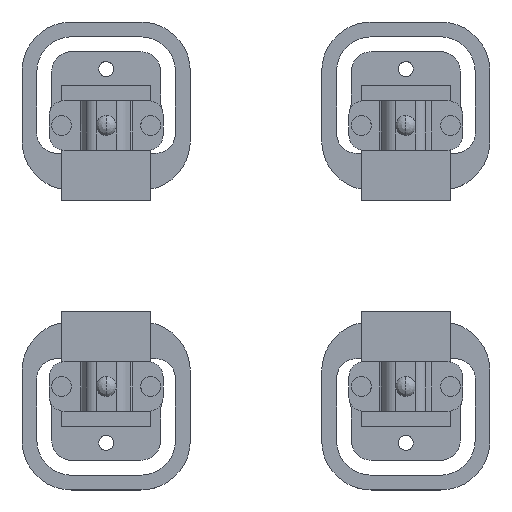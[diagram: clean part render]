
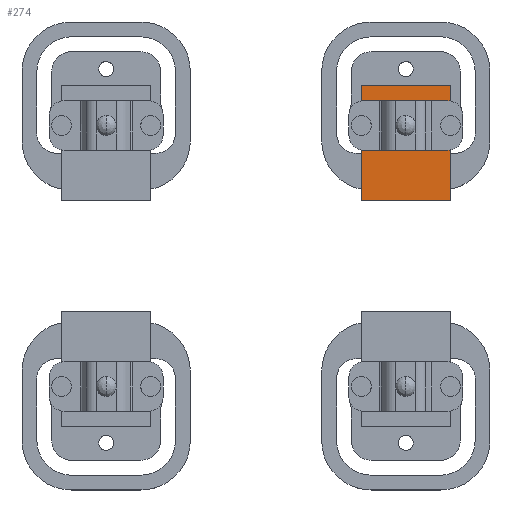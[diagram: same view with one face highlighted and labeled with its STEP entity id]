
A CAD part, top view. The second image highlights one B-rep face of the part: STEP entity #274.
In plain terms, the highlighted planar face has unit normal (0, 0, 1).
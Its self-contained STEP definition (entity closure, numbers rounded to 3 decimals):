
#274=ADVANCED_FACE('',(#830),#8084,.T.);
#830=FACE_OUTER_BOUND('',#1405,.T.);
#1405=EDGE_LOOP('',(#2538,#2539,#2540,#2541));
#2538=ORIENTED_EDGE('',*,*,#4853,.F.);
#2539=ORIENTED_EDGE('',*,*,#4852,.F.);
#2540=ORIENTED_EDGE('',*,*,#4851,.F.);
#2541=ORIENTED_EDGE('',*,*,#4850,.F.);
#4850=EDGE_CURVE('',#7381,#7382,#6040,.T.);
#4851=EDGE_CURVE('',#7382,#7383,#6041,.T.);
#4852=EDGE_CURVE('',#7383,#7384,#6042,.T.);
#4853=EDGE_CURVE('',#7384,#7381,#6043,.T.);
#6040=B_SPLINE_CURVE_WITH_KNOTS('',1,(#11158,#11159),.UNSPECIFIED.,.F.,
 .F.,(2,2),(0.,6.4),.UNSPECIFIED.);
#6041=B_SPLINE_CURVE_WITH_KNOTS('',1,(#11160,#11161),.UNSPECIFIED.,.F.,
 .F.,(2,2),(0.,28.),.UNSPECIFIED.);
#6042=B_SPLINE_CURVE_WITH_KNOTS('',1,(#11162,#11163),.UNSPECIFIED.,.F.,
 .F.,(2,2),(0.,6.4),.UNSPECIFIED.);
#6043=B_SPLINE_CURVE_WITH_KNOTS('',1,(#11164,#11165),.UNSPECIFIED.,.F.,
 .F.,(2,2),(0.,28.),.UNSPECIFIED.);
#7381=VERTEX_POINT('',#11126);
#7382=VERTEX_POINT('',#11127);
#7383=VERTEX_POINT('',#11128);
#7384=VERTEX_POINT('',#11129);
#8084=PLANE('',#8792);
#8792=AXIS2_PLACEMENT_3D('',#11115,#9343,$);
#9343=DIRECTION('',(0.,0.,1.));
#11115=CARTESIAN_POINT('',(39.268,11.268,9.6));
#11126=CARTESIAN_POINT('',(39.268,11.268,9.6));
#11127=CARTESIAN_POINT('',(21.268,11.268,9.6));
#11128=CARTESIAN_POINT('',(21.268,34.368,9.6));
#11129=CARTESIAN_POINT('',(39.268,34.368,9.6));
#11158=CARTESIAN_POINT('',(39.268,11.268,9.6));
#11159=CARTESIAN_POINT('',(21.268,11.268,9.6));
#11160=CARTESIAN_POINT('',(21.268,11.268,9.6));
#11161=CARTESIAN_POINT('',(21.268,34.368,9.6));
#11162=CARTESIAN_POINT('',(21.268,34.368,9.6));
#11163=CARTESIAN_POINT('',(39.268,34.368,9.6));
#11164=CARTESIAN_POINT('',(39.268,34.368,9.6));
#11165=CARTESIAN_POINT('',(39.268,11.268,9.6));
